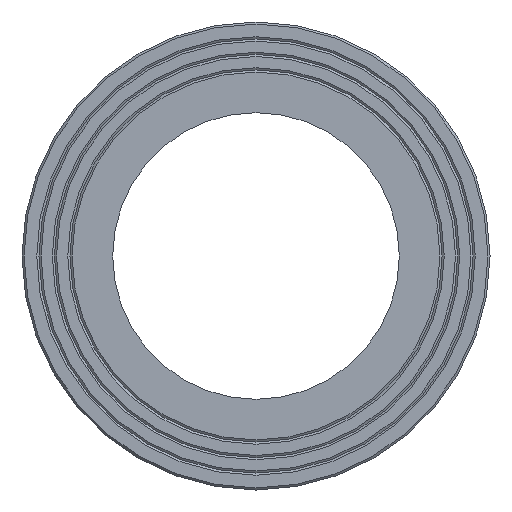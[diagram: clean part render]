
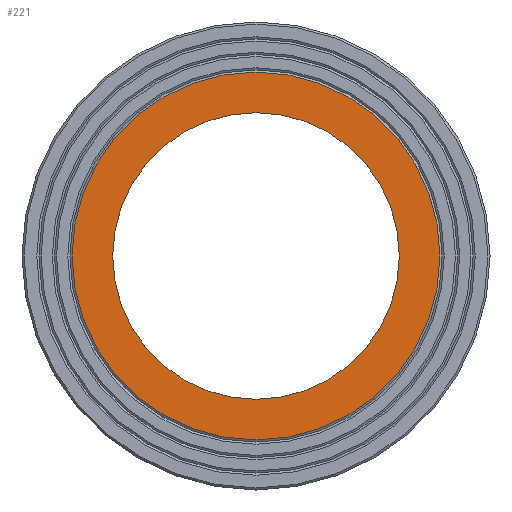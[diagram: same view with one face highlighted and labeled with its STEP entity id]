
A CAD part, left-side view. The second image highlights one B-rep face of the part: STEP entity #221.
In plain terms, the highlighted planar face has unit normal (-1, 0, 0).
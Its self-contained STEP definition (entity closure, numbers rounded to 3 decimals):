
#36=ORIENTED_EDGE('',*,*,#76,.F.);
#37=ORIENTED_EDGE('',*,*,#77,.T.);
#76=EDGE_CURVE('',#96,#96,#116,.T.);
#77=EDGE_CURVE('',#97,#97,#117,.T.);
#96=VERTEX_POINT('',#383);
#97=VERTEX_POINT('',#385);
#116=CIRCLE('',#257,101.7);
#117=CIRCLE('',#258,130.5);
#136=EDGE_LOOP('',(#36));
#137=EDGE_LOOP('',(#37));
#176=FACE_BOUND('',#136,.T.);
#177=FACE_BOUND('',#137,.T.);
#215=PLANE('',#256);
#221=ADVANCED_FACE('',(#176,#177),#215,.F.);
#256=AXIS2_PLACEMENT_3D('',#381,#301,#302);
#257=AXIS2_PLACEMENT_3D('',#382,#303,#304);
#258=AXIS2_PLACEMENT_3D('',#384,#305,#306);
#301=DIRECTION('',(1.,0.,0.));
#302=DIRECTION('',(0.,0.,-1.));
#303=DIRECTION('',(-1.,0.,0.));
#304=DIRECTION('',(0.,0.,1.));
#305=DIRECTION('',(-1.,0.,0.));
#306=DIRECTION('',(0.,0.,1.));
#381=CARTESIAN_POINT('',(0.,0.,166.));
#382=CARTESIAN_POINT('',(0.,0.,0.));
#383=CARTESIAN_POINT('',(0.,0.,101.7));
#384=CARTESIAN_POINT('',(0.,0.,0.));
#385=CARTESIAN_POINT('',(0.,0.,130.5));
